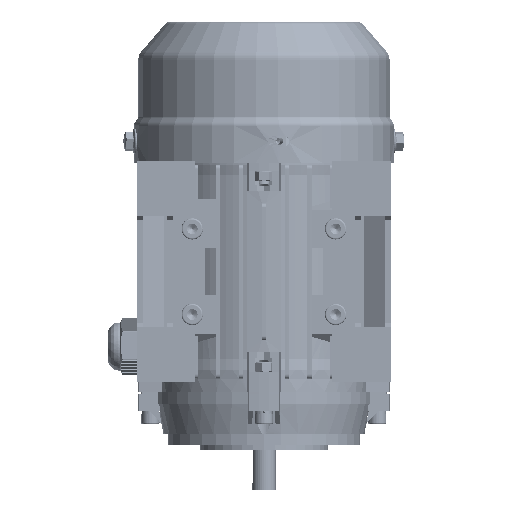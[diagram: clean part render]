
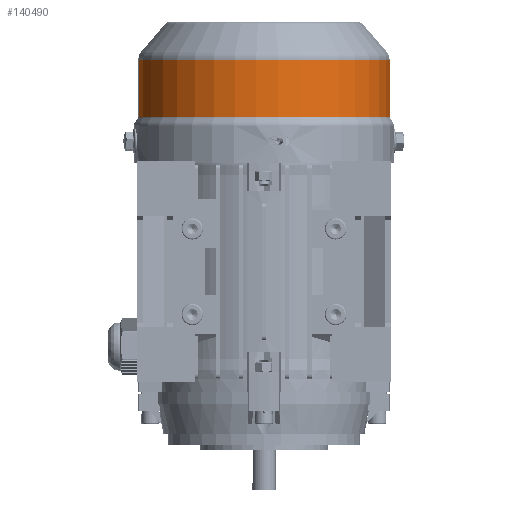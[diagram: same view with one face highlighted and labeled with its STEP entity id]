
A CAD part, front view. The second image highlights one B-rep face of the part: STEP entity #140490.
In plain terms, the highlighted cylindrical face has radius 58.8 mm (diameter 117.6 mm), a partial arc.
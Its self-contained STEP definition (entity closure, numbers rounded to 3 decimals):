
#652 = EDGE_CURVE ( 'NONE', #113289, #8213, #86966, .T. ) ;
#1623 = DIRECTION ( 'NONE',  ( 0., -1., 0. ) ) ;
#8213 = VERTEX_POINT ( 'NONE', #142389 ) ;
#9059 = AXIS2_PLACEMENT_3D ( 'NONE', #18513, #96022, #29618 ) ;
#18513 = CARTESIAN_POINT ( 'NONE',  ( 0., 33.496, 0. ) ) ;
#23564 = DIRECTION ( 'NONE',  ( 0., -1., 0. ) ) ;
#26321 = DIRECTION ( 'NONE',  ( 0., -1., 0. ) ) ;
#29618 = DIRECTION ( 'NONE',  ( 1., 0., 0. ) ) ;
#31633 = VECTOR ( 'NONE', #1623, 1000. ) ;
#33809 = CYLINDRICAL_SURFACE ( 'NONE', #125786, 58.8 ) ;
#45221 = CARTESIAN_POINT ( 'NONE',  ( -58.8, 33.496, 0. ) ) ;
#49270 = ORIENTED_EDGE ( 'NONE', *, *, #128017, .T. ) ;
#53674 = VERTEX_POINT ( 'NONE', #124603 ) ;
#54018 = ORIENTED_EDGE ( 'NONE', *, *, #101114, .T. ) ;
#55577 = CARTESIAN_POINT ( 'NONE',  ( 58.8, 17.63, 0. ) ) ;
#61113 = LINE ( 'NONE', #89807, #31633 ) ;
#62851 = ORIENTED_EDGE ( 'NONE', *, *, #89389, .F. ) ;
#66584 = AXIS2_PLACEMENT_3D ( 'NONE', #89929, #23564, #101049 ) ;
#66947 = LINE ( 'NONE', #55577, #96405 ) ;
#76949 = CIRCLE ( 'NONE', #66584, 58.8 ) ;
#79065 = EDGE_LOOP ( 'NONE', ( #62851, #54018, #49270, #133496 ) ) ;
#80643 = DIRECTION ( 'NONE',  ( 1., 0., 0. ) ) ;
#84364 = VERTEX_POINT ( 'NONE', #108099 ) ;
#86966 = CIRCLE ( 'NONE', #9059, 58.8 ) ;
#88102 = DIRECTION ( 'NONE',  ( 0., -1., 0. ) ) ;
#89389 = EDGE_CURVE ( 'NONE', #84364, #113289, #61113, .T. ) ;
#89807 = CARTESIAN_POINT ( 'NONE',  ( -58.8, 17.63, 0. ) ) ;
#89929 = CARTESIAN_POINT ( 'NONE',  ( 0., 60.025, 0. ) ) ;
#96022 = DIRECTION ( 'NONE',  ( 0., -1., 0. ) ) ;
#96405 = VECTOR ( 'NONE', #88102, 1000. ) ;
#101049 = DIRECTION ( 'NONE',  ( 1., 0., 0. ) ) ;
#101114 = EDGE_CURVE ( 'NONE', #84364, #53674, #76949, .T. ) ;
#103352 = CARTESIAN_POINT ( 'NONE',  ( 0., 17.63, 0. ) ) ;
#108099 = CARTESIAN_POINT ( 'NONE',  ( -58.8, 60.025, 0. ) ) ;
#113289 = VERTEX_POINT ( 'NONE', #45221 ) ;
#122247 = FACE_OUTER_BOUND ( 'NONE', #79065, .T. ) ;
#124603 = CARTESIAN_POINT ( 'NONE',  ( 58.8, 60.025, 0. ) ) ;
#125786 = AXIS2_PLACEMENT_3D ( 'NONE', #103352, #26321, #80643 ) ;
#128017 = EDGE_CURVE ( 'NONE', #53674, #8213, #66947, .T. ) ;
#133496 = ORIENTED_EDGE ( 'NONE', *, *, #652, .F. ) ;
#140490 = ADVANCED_FACE ( 'NONE', ( #122247 ), #33809, .T. ) ;
#142389 = CARTESIAN_POINT ( 'NONE',  ( 58.8, 33.496, 0. ) ) ;
